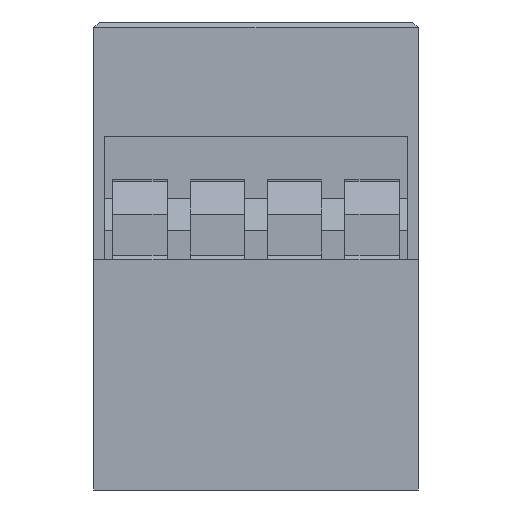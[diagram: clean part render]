
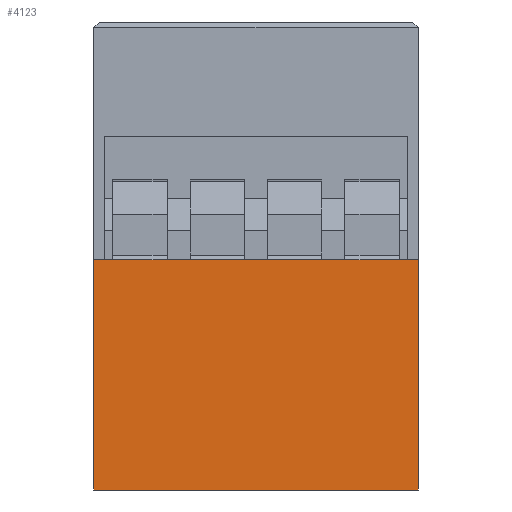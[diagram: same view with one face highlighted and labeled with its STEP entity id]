
A CAD part, front view. The second image highlights one B-rep face of the part: STEP entity #4123.
In plain terms, the highlighted planar face has unit normal (0, -1, 0).
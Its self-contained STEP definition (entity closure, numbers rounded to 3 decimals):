
#517=DIRECTION('',(1.,0.,0.));
#518=VECTOR('',#517,8.4);
#519=CARTESIAN_POINT('',(-19.169,-5.788,-20.893));
#520=LINE('',#519,#518);
#1127=DIRECTION('',(1.,0.,0.));
#1128=VECTOR('',#1127,1.4);
#1129=CARTESIAN_POINT('',(-12.669,-5.788,-14.939));
#1130=LINE('',#1129,#1128);
#1131=DIRECTION('',(1.,0.,0.));
#1132=VECTOR('',#1131,0.5);
#1133=CARTESIAN_POINT('',(-11.269,-5.788,-14.939));
#1134=LINE('',#1133,#1132);
#1135=DIRECTION('',(0.,0.,-1.));
#1136=VECTOR('',#1135,5.955);
#1137=CARTESIAN_POINT('',(-19.169,-5.788,-14.939));
#1138=LINE('',#1137,#1136);
#1139=DIRECTION('',(1.,0.,0.));
#1140=VECTOR('',#1139,0.5);
#1141=CARTESIAN_POINT('',(-19.169,-5.788,-14.939));
#1142=LINE('',#1141,#1140);
#1143=DIRECTION('',(1.,0.,0.));
#1144=VECTOR('',#1143,1.4);
#1145=CARTESIAN_POINT('',(-18.669,-5.788,-14.939));
#1146=LINE('',#1145,#1144);
#1147=DIRECTION('',(1.,0.,0.));
#1148=VECTOR('',#1147,0.6);
#1149=CARTESIAN_POINT('',(-17.269,-5.788,-14.939));
#1150=LINE('',#1149,#1148);
#1151=DIRECTION('',(1.,0.,0.));
#1152=VECTOR('',#1151,1.4);
#1153=CARTESIAN_POINT('',(-16.669,-5.788,-14.939));
#1154=LINE('',#1153,#1152);
#1155=DIRECTION('',(1.,0.,0.));
#1156=VECTOR('',#1155,0.6);
#1157=CARTESIAN_POINT('',(-15.269,-5.788,-14.939));
#1158=LINE('',#1157,#1156);
#1159=DIRECTION('',(-1.,0.,0.));
#1160=VECTOR('',#1159,1.4);
#1161=CARTESIAN_POINT('',(-13.269,-5.788,-14.939));
#1162=LINE('',#1161,#1160);
#1163=DIRECTION('',(1.,0.,0.));
#1164=VECTOR('',#1163,0.6);
#1165=CARTESIAN_POINT('',(-13.269,-5.788,-14.939));
#1166=LINE('',#1165,#1164);
#1447=DIRECTION('',(0.,0.,-1.));
#1448=VECTOR('',#1447,5.955);
#1449=CARTESIAN_POINT('',(-10.769,-5.788,-14.939));
#1450=LINE('',#1449,#1448);
#1855=CARTESIAN_POINT('',(-19.169,-5.788,-20.893));
#1856=CARTESIAN_POINT('',(-10.769,-5.788,-20.893));
#1857=VERTEX_POINT('',#1855);
#1858=VERTEX_POINT('',#1856);
#1861=CARTESIAN_POINT('',(-10.769,-5.788,-14.939));
#1862=VERTEX_POINT('',#1861);
#1899=CARTESIAN_POINT('',(-18.669,-5.788,-14.939));
#1901=VERTEX_POINT('',#1899);
#1903=CARTESIAN_POINT('',(-17.269,-5.788,-14.939));
#1905=VERTEX_POINT('',#1903);
#1919=CARTESIAN_POINT('',(-19.169,-5.788,-14.939));
#1920=VERTEX_POINT('',#1919);
#1933=CARTESIAN_POINT('',(-16.669,-5.788,-14.939));
#1935=VERTEX_POINT('',#1933);
#1937=CARTESIAN_POINT('',(-15.269,-5.788,-14.939));
#1939=VERTEX_POINT('',#1937);
#2251=CARTESIAN_POINT('',(-13.269,-5.788,-14.939));
#2252=CARTESIAN_POINT('',(-14.669,-5.788,-14.939));
#2253=VERTEX_POINT('',#2251);
#2254=VERTEX_POINT('',#2252);
#2371=CARTESIAN_POINT('',(-12.669,-5.788,-14.939));
#2372=CARTESIAN_POINT('',(-11.269,-5.788,-14.939));
#2373=VERTEX_POINT('',#2371);
#2374=VERTEX_POINT('',#2372);
#4100=CARTESIAN_POINT('',(-19.169,-5.788,-8.793));
#4101=DIRECTION('',(0.,-1.,0.));
#4102=DIRECTION('',(1.,0.,0.));
#4103=AXIS2_PLACEMENT_3D('',#4100,#4101,#4102);
#4104=PLANE('',#4103);
#4106=ORIENTED_EDGE('',*,*,#4105,.T.);
#4107=ORIENTED_EDGE('',*,*,#3940,.T.);
#4109=ORIENTED_EDGE('',*,*,#4108,.T.);
#4110=ORIENTED_EDGE('',*,*,#3073,.F.);
#4111=ORIENTED_EDGE('',*,*,#3818,.F.);
#4112=ORIENTED_EDGE('',*,*,#3960,.T.);
#4113=ORIENTED_EDGE('',*,*,#4090,.T.);
#4114=ORIENTED_EDGE('',*,*,#3890,.T.);
#4116=ORIENTED_EDGE('',*,*,#4115,.T.);
#4117=ORIENTED_EDGE('',*,*,#3906,.T.);
#4119=ORIENTED_EDGE('',*,*,#4118,.F.);
#4120=ORIENTED_EDGE('',*,*,#3922,.T.);
#4121=EDGE_LOOP('',(#4106,#4107,#4109,#4110,#4111,#4112,#4113,#4114,#4116,#4117,
#4119,#4120));
#4122=FACE_OUTER_BOUND('',#4121,.F.);
#4123=ADVANCED_FACE('',(#4122),#4104,.T.);
#3073=EDGE_CURVE('',#1857,#1858,#520,.T.);
#3818=EDGE_CURVE('',#1920,#1857,#1138,.T.);
#3890=EDGE_CURVE('',#1905,#1935,#1150,.T.);
#3906=EDGE_CURVE('',#1939,#2254,#1158,.T.);
#3922=EDGE_CURVE('',#2253,#2373,#1166,.T.);
#3940=EDGE_CURVE('',#2374,#1862,#1134,.T.);
#3960=EDGE_CURVE('',#1920,#1901,#1142,.T.);
#4090=EDGE_CURVE('',#1901,#1905,#1146,.T.);
#4105=EDGE_CURVE('',#2373,#2374,#1130,.T.);
#4108=EDGE_CURVE('',#1862,#1858,#1450,.T.);
#4115=EDGE_CURVE('',#1935,#1939,#1154,.T.);
#4118=EDGE_CURVE('',#2253,#2254,#1162,.T.);
